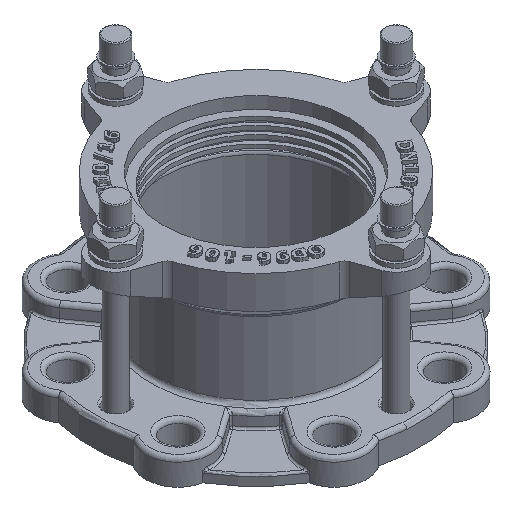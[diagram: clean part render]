
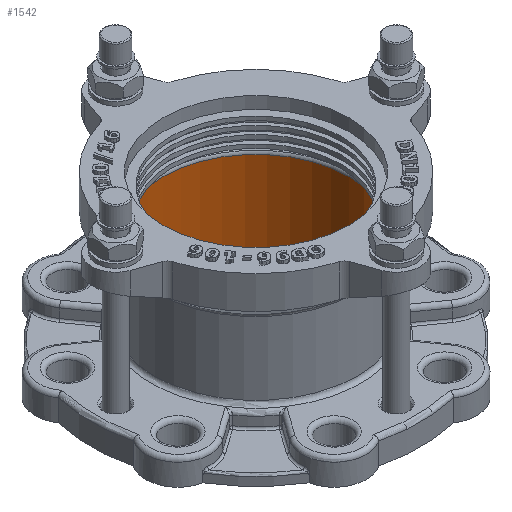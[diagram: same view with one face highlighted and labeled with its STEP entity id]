
A CAD part, isometric view. The second image highlights one B-rep face of the part: STEP entity #1542.
In plain terms, the highlighted cylindrical face has radius 58 mm (diameter 116 mm), a full revolution.
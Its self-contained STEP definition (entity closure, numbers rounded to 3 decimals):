
#1542=ADVANCED_FACE('',(#10353,#10355),#10357,.F.);
#10353=FACE_OUTER_BOUND('',#10354,.T.);
#10354=EDGE_LOOP('',(#15812));
#10355=FACE_OUTER_BOUND('',#10356,.T.);
#10356=EDGE_LOOP('',(#15813));
#10357=CYLINDRICAL_SURFACE('',#10358,58.);
#10358=AXIS2_PLACEMENT_3D('',#10359,#10360,#10361);
#10359=CARTESIAN_POINT('',(0.,0.,3.));
#10360=DIRECTION('',(0.,0.,1.));
#10361=DIRECTION('',(-1.,0.,0.));
#15812=ORIENTED_EDGE('',*,*,#20565,.F.);
#15813=ORIENTED_EDGE('',*,*,#20566,.T.);
#20565=EDGE_CURVE('',#23214,#23214,#23215,.T.);
#20566=EDGE_CURVE('',#23216,#23216,#23217,.F.);
#23214=VERTEX_POINT('',#32184);
#23215=CIRCLE('',#32185,58.);
#23216=VERTEX_POINT('',#32189);
#23217=CIRCLE('',#32190,58.);
#32184=CARTESIAN_POINT('',(0.,58.,68.75));
#32185=AXIS2_PLACEMENT_3D('',#32186,#32187,#32188);
#32186=CARTESIAN_POINT('',(0.,0.,68.75));
#32187=DIRECTION('',(0.,0.,-1.));
#32188=DIRECTION('',(0.,1.,0.));
#32189=CARTESIAN_POINT('',(0.,58.,5.5));
#32190=AXIS2_PLACEMENT_3D('',#32191,#32192,#32193);
#32191=CARTESIAN_POINT('',(0.,0.,5.5));
#32192=DIRECTION('',(0.,0.,1.));
#32193=DIRECTION('',(0.,1.,0.));
